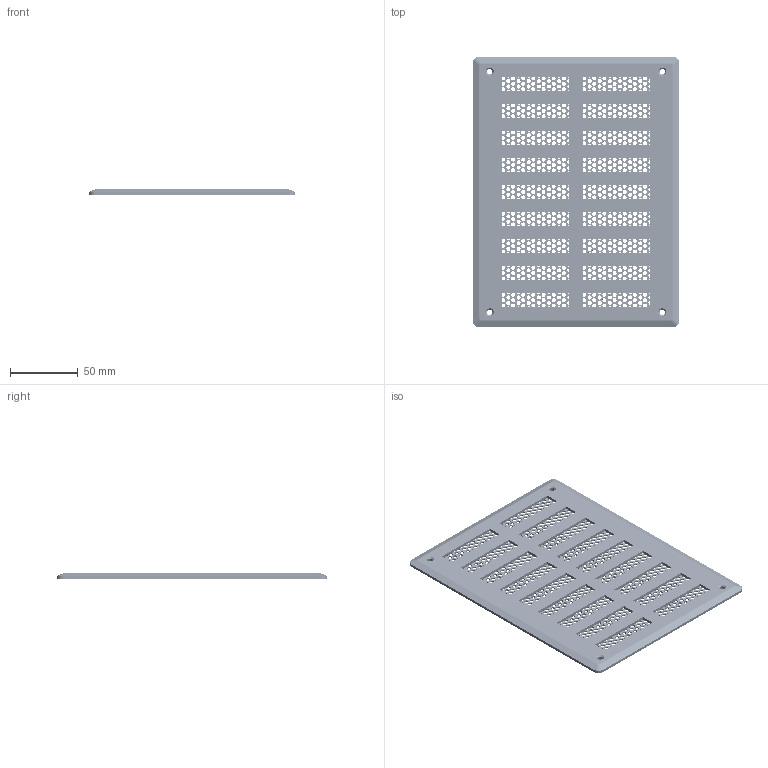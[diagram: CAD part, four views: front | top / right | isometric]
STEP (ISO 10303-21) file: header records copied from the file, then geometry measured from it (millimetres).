
FILE_DESCRIPTION(/* description */ (''),/* implementation_level */ '2;1');
FILE_NAME(/* name */ '\\Nas\db20\GR-AL-150-200\DR_GR-AL-150-200.stp',/* time_stamp */ '2018-07-10T11:24:21+09:00',/* author */ ('user'),/* organization */ (''),/* preprocessor_version */ 'ST-DEVELOPER v15.6',/* originating_system */ 'Autodesk Inventor 2015',/* authorisation */ '');
FILE_SCHEMA (('AUTOMOTIVE_DESIGN { 1 0 10303 214 3 1 1 }'));
Length unit declared in the file: millimetre
Products named in the file (1): DR_GR-AL-150-200
Bounding box: 153 x 200 x 4 mm (x, y, z)
Volume: 55632.6 mm3; surface area: 86947.7 mm2
Topology: 2 solids, 2 shells, 1670 faces, 4930 edges, 3224 vertices
Faces by surface type: cylinder 1484, plane 178, bspline 4, cone 4
Full cylindrical faces by diameter (mm): 3 x1424, 4 x4, 8 x4
Entity records: 56098 total; most frequent: DIRECTION 9853, CARTESIAN_POINT 8486, ORIENTED_EDGE 7160, EDGE_LOOP 5868, AXIS2_PLACEMENT_3D 4651, FACE_BOUND 4198, EDGE_CURVE 3535, VERTEX_POINT 3220
